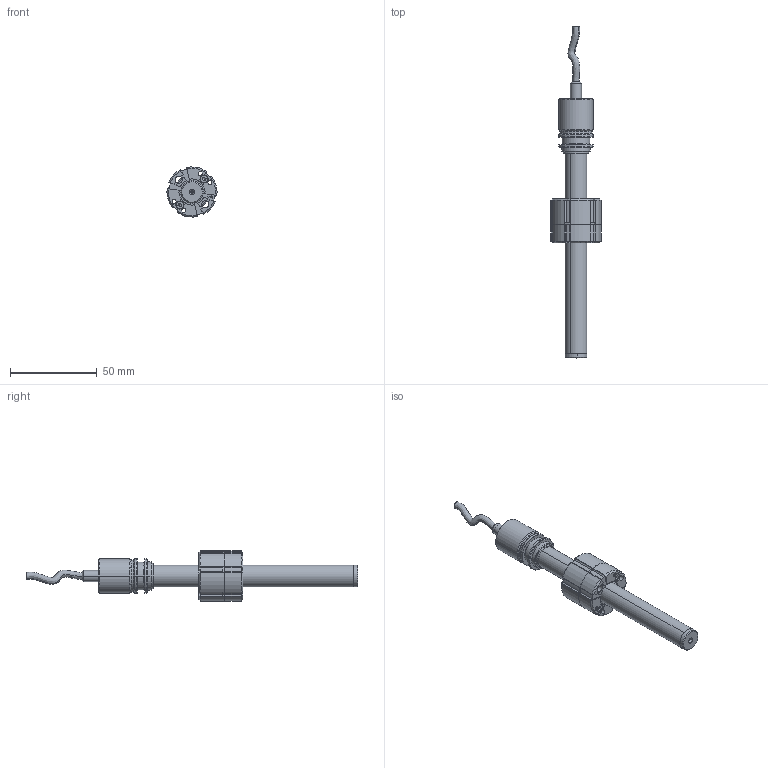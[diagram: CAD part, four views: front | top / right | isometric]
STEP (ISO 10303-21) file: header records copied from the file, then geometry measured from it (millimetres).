
FILE_DESCRIPTION (( 'STEP AP203' ), '1' );
FILE_NAME ('PMISLE-F-0050-X.STEP', '2013-05-07T14:29:57', ( 'User' ), ( '' ), 'SwSTEP 2.0', 'SolidWorks 2013', '' );
FILE_SCHEMA (( 'CONFIG_CONTROL_DESIGN' ));
Length unit declared in the file: millimetre
Products named in the file (13): TERMORX; TAP014X; PMISLE-F-0050-X; PMI-SLIM cavoX; PMI-SLIM saldaturaX; CUS846X; MIM803X_MIM803; CUS847X; NIP600X; INS003X; TUB535X; PCUR010X; PUN016X
Assembly tree (14 placements, depth 3):
  PMISLE-F-0050-X
    NIP600X
    TUB535X
    PUN016X
    TAP014X
    PMI-SLIM cavoX
    PMI-SLIM saldaturaX
    PCUR010X
      CUS846X
      MIM803X_MIM803  x2
      CUS847X
      INS003X  x2
    TERMORX
Bounding box: 28.99 x 191.87 x 28.97 mm (x, y, z)
Volume: 35944.3 mm3; surface area: 18862.4 mm2
Topology: 13 solids, 13 shells, 983 faces, 2592 edges, 1637 vertices
Faces by surface type: cone 392, cylinder 372, plane 191, torus 20, bspline 8
Entity records: 24251 total; most frequent: CARTESIAN_POINT 4851, DIRECTION 4142, ORIENTED_EDGE 3656, EDGE_CURVE 1828, AXIS2_PLACEMENT_3D 1641, VERTEX_POINT 1166, CIRCLE 942, LINE 860
